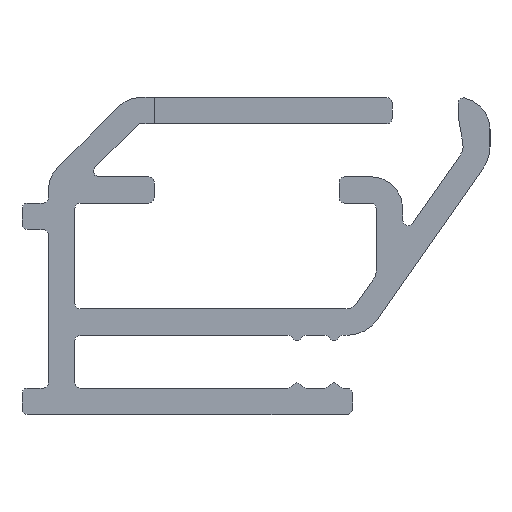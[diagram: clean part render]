
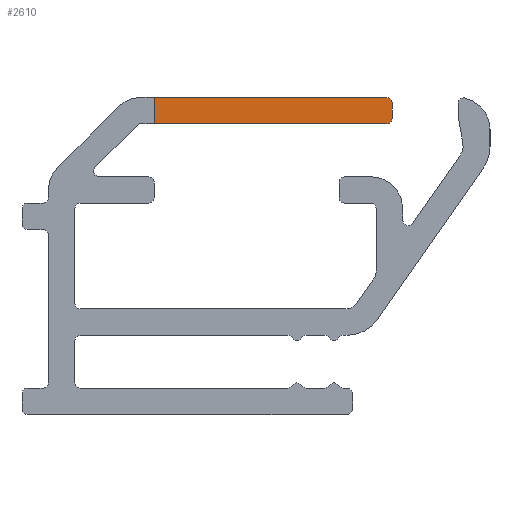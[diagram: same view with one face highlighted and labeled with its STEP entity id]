
A CAD part, left-side view. The second image highlights one B-rep face of the part: STEP entity #2610.
In plain terms, the highlighted planar face has unit normal (-1, 0, 0).
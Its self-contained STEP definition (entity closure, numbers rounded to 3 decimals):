
#19 = DIRECTION ( 'NONE',  ( 0., 0., -1. ) ) ;
#32 = DIRECTION ( 'NONE',  ( 0., 1., 0. ) ) ;
#210 = VERTEX_POINT ( 'NONE', #3002 ) ;
#215 = CARTESIAN_POINT ( 'NONE',  ( -480., 2.5, 6. ) ) ;
#265 = CARTESIAN_POINT ( 'NONE',  ( -480., -6.3, 6. ) ) ;
#303 = EDGE_LOOP ( 'NONE', ( #802, #812, #2814, #2413, #1063, #2651 ) ) ;
#426 = LINE ( 'NONE', #215, #1808 ) ;
#475 = PLANE ( 'NONE',  #1874 ) ;
#488 = DIRECTION ( 'NONE',  ( -1., 0., 0. ) ) ;
#495 = VERTEX_POINT ( 'NONE', #1424 ) ;
#579 = CARTESIAN_POINT ( 'NONE',  ( -480., 2.5, 5. ) ) ;
#646 = VERTEX_POINT ( 'NONE', #3013 ) ;
#725 = VERTEX_POINT ( 'NONE', #2102 ) ;
#802 = ORIENTED_EDGE ( 'NONE', *, *, #1010, .T. ) ;
#812 = ORIENTED_EDGE ( 'NONE', *, *, #1157, .F. ) ;
#978 = FACE_OUTER_BOUND ( 'NONE', #303, .T. ) ;
#994 = DIRECTION ( 'NONE',  ( 0., 0., -1. ) ) ;
#1010 = EDGE_CURVE ( 'NONE', #495, #210, #2628, .T. ) ;
#1029 = CARTESIAN_POINT ( 'NONE',  ( -480., -6.3, 5.2 ) ) ;
#1063 = ORIENTED_EDGE ( 'NONE', *, *, #1409, .F. ) ;
#1066 = DIRECTION ( 'NONE',  ( 0., 0., 1. ) ) ;
#1157 = EDGE_CURVE ( 'NONE', #646, #210, #2788, .T. ) ;
#1197 = DIRECTION ( 'NONE',  ( 1., 0., 0. ) ) ;
#1210 = DIRECTION ( 'NONE',  ( -1., 0., 0. ) ) ;
#1303 = EDGE_CURVE ( 'NONE', #2159, #725, #426, .T. ) ;
#1409 = EDGE_CURVE ( 'NONE', #1524, #725, #2436, .T. ) ;
#1424 = CARTESIAN_POINT ( 'NONE',  ( -480., -6.3, 5. ) ) ;
#1481 = CARTESIAN_POINT ( 'NONE',  ( -480., 2.5, 5. ) ) ;
#1517 = CARTESIAN_POINT ( 'NONE',  ( -480., -6.3, 5.8 ) ) ;
#1524 = VERTEX_POINT ( 'NONE', #3051 ) ;
#1596 = AXIS2_PLACEMENT_3D ( 'NONE', #1029, #488, #19 ) ;
#1808 = VECTOR ( 'NONE', #2864, 1000. ) ;
#1874 = AXIS2_PLACEMENT_3D ( 'NONE', #1481, #1197, #2227 ) ;
#2102 = CARTESIAN_POINT ( 'NONE',  ( -480., 2.5, 6. ) ) ;
#2159 = VERTEX_POINT ( 'NONE', #265 ) ;
#2227 = DIRECTION ( 'NONE',  ( 0., 0., -1. ) ) ;
#2253 = LINE ( 'NONE', #579, #3162 ) ;
#2266 = VECTOR ( 'NONE', #3022, 1000. ) ;
#2333 = CIRCLE ( 'NONE', #2847, 0.2 ) ;
#2413 = ORIENTED_EDGE ( 'NONE', *, *, #1303, .T. ) ;
#2436 = LINE ( 'NONE', #2626, #2574 ) ;
#2574 = VECTOR ( 'NONE', #1066, 1000. ) ;
#2610 = ADVANCED_FACE ( 'NONE', ( #978 ), #475, .F. ) ;
#2612 = EDGE_CURVE ( 'NONE', #646, #2159, #2333, .T. ) ;
#2626 = CARTESIAN_POINT ( 'NONE',  ( -480., 2.5, 5. ) ) ;
#2628 = CIRCLE ( 'NONE', #1596, 0.2 ) ;
#2651 = ORIENTED_EDGE ( 'NONE', *, *, #2729, .F. ) ;
#2729 = EDGE_CURVE ( 'NONE', #495, #1524, #2253, .T. ) ;
#2788 = LINE ( 'NONE', #2800, #2266 ) ;
#2800 = CARTESIAN_POINT ( 'NONE',  ( -480., -6.5, 6. ) ) ;
#2814 = ORIENTED_EDGE ( 'NONE', *, *, #2612, .T. ) ;
#2847 = AXIS2_PLACEMENT_3D ( 'NONE', #1517, #1210, #994 ) ;
#2864 = DIRECTION ( 'NONE',  ( 0., 1., 0. ) ) ;
#3002 = CARTESIAN_POINT ( 'NONE',  ( -480., -6.5, 5.2 ) ) ;
#3013 = CARTESIAN_POINT ( 'NONE',  ( -480., -6.5, 5.8 ) ) ;
#3022 = DIRECTION ( 'NONE',  ( 0., 0., -1. ) ) ;
#3051 = CARTESIAN_POINT ( 'NONE',  ( -480., 2.5, 5. ) ) ;
#3162 = VECTOR ( 'NONE', #32, 1000. ) ;
